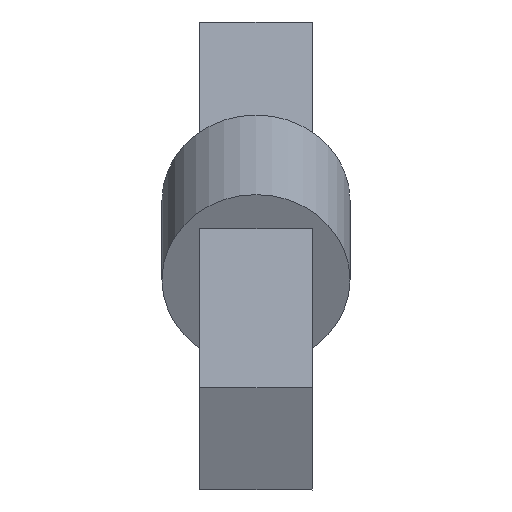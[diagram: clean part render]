
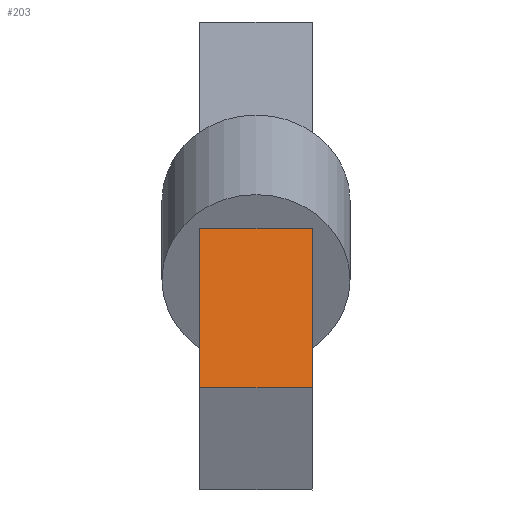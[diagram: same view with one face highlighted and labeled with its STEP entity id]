
A CAD part, front view. The second image highlights one B-rep face of the part: STEP entity #203.
In plain terms, the highlighted planar face has unit normal (0, -0.423, 0.906).
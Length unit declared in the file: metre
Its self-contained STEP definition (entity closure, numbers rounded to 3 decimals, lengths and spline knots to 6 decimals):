
#15=ORIENTED_EDGE('',*,*,#67,.F.);
#16=ORIENTED_EDGE('',*,*,#68,.F.);
#17=ORIENTED_EDGE('',*,*,#69,.T.);
#18=ORIENTED_EDGE('',*,*,#70,.T.);
#67=EDGE_CURVE('',#93,#94,#111,.T.);
#68=EDGE_CURVE('',#95,#93,#112,.T.);
#69=EDGE_CURVE('',#95,#96,#113,.T.);
#70=EDGE_CURVE('',#96,#94,#114,.T.);
#93=VERTEX_POINT('',#303);
#94=VERTEX_POINT('',#304);
#95=VERTEX_POINT('',#306);
#96=VERTEX_POINT('',#308);
#111=LINE('',#302,#135);
#112=LINE('',#305,#136);
#113=LINE('',#307,#137);
#114=LINE('',#309,#138);
#135=VECTOR('',#248,1.);
#136=VECTOR('',#249,1.);
#137=VECTOR('',#250,1.);
#138=VECTOR('',#251,1.);
#159=EDGE_LOOP('',(#15,#16,#17,#18));
#175=FACE_BOUND('',#159,.T.);
#191=PLANE('',#229);
#203=ADVANCED_FACE('',(#175),#191,.T.);
#229=AXIS2_PLACEMENT_3D('',#301,#246,#247);
#246=DIRECTION('',(0.,-0.423,0.906));
#247=DIRECTION('',(0.,-0.906,-0.423));
#248=DIRECTION('',(1.,0.,0.));
#249=DIRECTION('',(0.,0.906,0.423));
#250=DIRECTION('',(1.,0.,0.));
#251=DIRECTION('',(0.,0.906,0.423));
#301=CARTESIAN_POINT('',(0.,-0.239932,-0.012645));
#302=CARTESIAN_POINT('',(0.,-0.230869,-0.008419));
#303=CARTESIAN_POINT('',(-0.0015,-0.230869,-0.008419));
#304=CARTESIAN_POINT('',(0.0015,-0.230869,-0.008419));
#305=CARTESIAN_POINT('',(-0.0015,-0.239932,-0.012645));
#306=CARTESIAN_POINT('',(-0.0015,-0.239932,-0.012645));
#307=CARTESIAN_POINT('',(0.,-0.239932,-0.012645));
#308=CARTESIAN_POINT('',(0.0015,-0.239932,-0.012645));
#309=CARTESIAN_POINT('',(0.0015,-0.239932,-0.012645));
